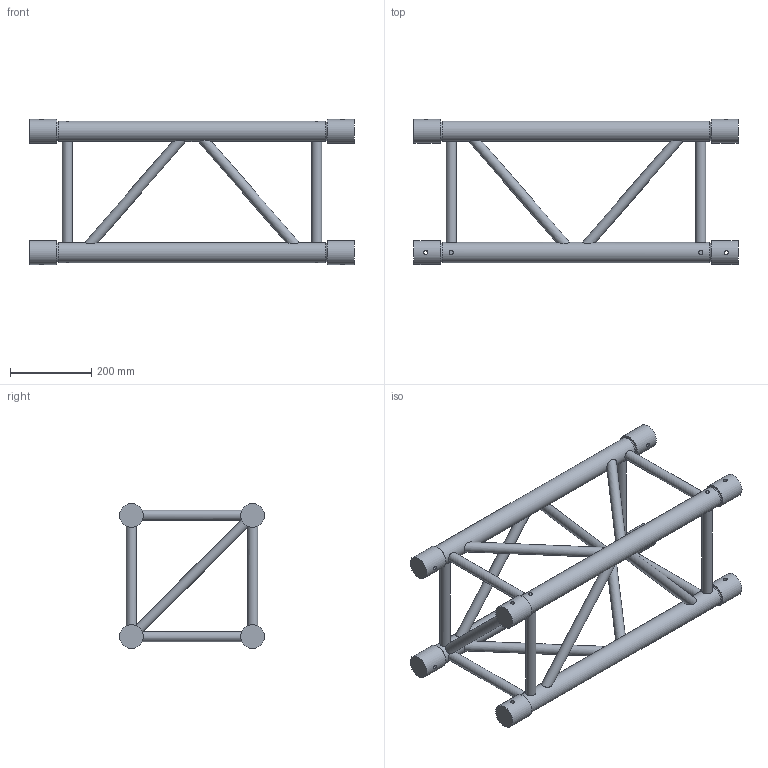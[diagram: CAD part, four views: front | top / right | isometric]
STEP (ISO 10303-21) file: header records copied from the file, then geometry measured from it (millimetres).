
FILE_DESCRIPTION(/* description */ (''),/* implementation_level */ '2;1');
FILE_NAME(/* name */ 'C:\Users\corina\Desktop\111110060.stp',/* time_stamp */ '2016-09-02T13:50:29+03:00',/* author */ ('corina.carstoveanu'),/* organization */ (''),/* preprocessor_version */ 'ST-DEVELOPER v15.6',/* originating_system */ 'Autodesk Inventor 2015',/* authorisation */ '');
FILE_SCHEMA (('AUTOMOTIVE_DESIGN { 1 0 10303 214 3 1 1 }'));
Length unit declared in the file: metre
Products named in the file (1): 260030828
Bounding box: 800 x 357.8 x 357.8 mm (x, y, z)
Volume: 9284573.5 mm3; surface area: 985053.1 mm2
Topology: 1 solids, 1 shells, 150 faces, 350 edges, 212 vertices
Faces by surface type: plane 72, cylinder 70, cone 8
Full cylindrical faces by diameter (mm): 10 x8, 25 x18, 50 x4, 58.8 x8
Entity records: 5960 total; most frequent: CARTESIAN_POINT 2511, DIRECTION 646, ORIENTED_EDGE 608, AXIS2_PLACEMENT_3D 303, EDGE_CURVE 280, EDGE_LOOP 272, VERTEX_POINT 200, STYLED_ITEM 151
